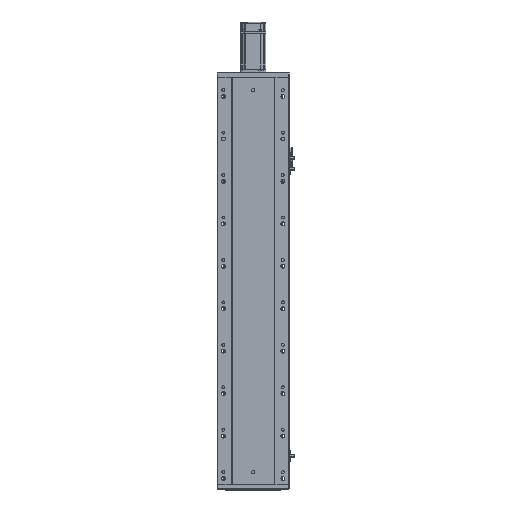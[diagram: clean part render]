
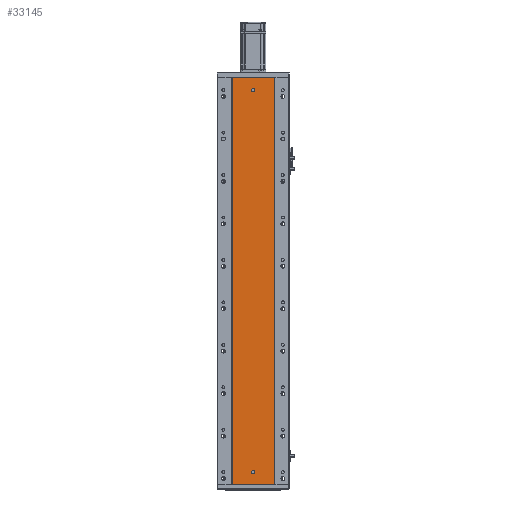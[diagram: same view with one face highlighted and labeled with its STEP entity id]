
A CAD part, front view. The second image highlights one B-rep face of the part: STEP entity #33145.
In plain terms, the highlighted planar face has unit normal (0, -1, 0).
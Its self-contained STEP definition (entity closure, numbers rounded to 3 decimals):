
#1132 = EDGE_LOOP ( 'NONE', ( #59317, #59352, #59355, #59358 ) ) ;
#1149 = EDGE_LOOP ( 'NONE', ( #59043, #59313 ) ) ;
#1242 = EDGE_LOOP ( 'NONE', ( #58969, #58989 ) ) ;
#4739 = CARTESIAN_POINT ( 'NONE',  ( 86.97, 79.476, 0. ) ) ;
#4745 = CARTESIAN_POINT ( 'NONE',  ( 86.97, 79.476, 960. ) ) ;
#4750 = CARTESIAN_POINT ( 'NONE',  ( 185.97, 79.476, 960. ) ) ;
#4797 = CARTESIAN_POINT ( 'NONE',  ( 185.97, 79.476, 0. ) ) ;
#5525 = CARTESIAN_POINT ( 'NONE',  ( 136.47, 79.476, 26. ) ) ;
#7354 = CARTESIAN_POINT ( 'NONE',  ( 136.47, 79.476, 34. ) ) ;
#14671 = AXIS2_PLACEMENT_3D ( 'NONE', #17556, #17520, #17567 ) ;
#14689 = AXIS2_PLACEMENT_3D ( 'NONE', #17436, #17437, #17435 ) ;
#15260 = EDGE_CURVE ( 'NONE', #31428, #31458, #35098, .T. ) ;
#15283 = EDGE_CURVE ( 'NONE', #31458, #31436, #61201, .T. ) ;
#15286 = EDGE_CURVE ( 'NONE', #46937, #46939, #61212, .T. ) ;
#15293 = EDGE_CURVE ( 'NONE', #46888, #46855, #61176, .T. ) ;
#15297 = EDGE_CURVE ( 'NONE', #31428, #31463, #61148, .T. ) ;
#15311 = EDGE_CURVE ( 'NONE', #31463, #31436, #35109, .T. ) ;
#17435 = DIRECTION ( 'NONE',  ( 0., 0., -1. ) ) ;
#17436 = CARTESIAN_POINT ( 'NONE',  ( 136.47, 79.476, 930. ) ) ;
#17437 = DIRECTION ( 'NONE',  ( 0., -1., 0. ) ) ;
#17520 = DIRECTION ( 'NONE',  ( 0., -1., 0. ) ) ;
#17556 = CARTESIAN_POINT ( 'NONE',  ( 136.47, 79.476, 30. ) ) ;
#17567 = DIRECTION ( 'NONE',  ( 0., 0., -1. ) ) ;
#21744 = DIRECTION ( 'NONE',  ( 0., 0., 1. ) ) ;
#21759 = PLANE ( 'NONE',  #23997 ) ;
#21771 = DIRECTION ( 'NONE',  ( 0., 1., 0. ) ) ;
#21778 = CARTESIAN_POINT ( 'NONE',  ( 0., 79.476, 960. ) ) ;
#23997 = AXIS2_PLACEMENT_3D ( 'NONE', #21778, #21771, #21744 ) ;
#25894 = CIRCLE ( 'NONE', #14689, 4. ) ;
#26053 = CIRCLE ( 'NONE', #14671, 4. ) ;
#27700 = CARTESIAN_POINT ( 'NONE',  ( 86.97, 79.476, 960. ) ) ;
#27709 = CARTESIAN_POINT ( 'NONE',  ( 86.97, 79.476, 640. ) ) ;
#27726 = CARTESIAN_POINT ( 'NONE',  ( 86.97, 79.476, 0. ) ) ;
#27742 = CARTESIAN_POINT ( 'NONE',  ( 86.97, 79.476, 320. ) ) ;
#27808 = DIRECTION ( 'NONE',  ( 0., 0., -1. ) ) ;
#27822 = CARTESIAN_POINT ( 'NONE',  ( 136.47, 79.476, 30. ) ) ;
#27826 = DIRECTION ( 'NONE',  ( 1., 0., 0. ) ) ;
#27848 = DIRECTION ( 'NONE',  ( 0., -1., 0. ) ) ;
#27877 = CARTESIAN_POINT ( 'NONE',  ( 0., 79.476, 0. ) ) ;
#27879 = CARTESIAN_POINT ( 'NONE',  ( 136.47, 79.476, 930. ) ) ;
#27884 = CARTESIAN_POINT ( 'NONE',  ( 185.97, 79.476, 640. ) ) ;
#27889 = DIRECTION ( 'NONE',  ( 0., -1., 0. ) ) ;
#27897 = CARTESIAN_POINT ( 'NONE',  ( 185.97, 79.476, 960. ) ) ;
#27917 = CARTESIAN_POINT ( 'NONE',  ( 185.97, 79.476, 320. ) ) ;
#27921 = DIRECTION ( 'NONE',  ( 0., 0., -1. ) ) ;
#27924 = CARTESIAN_POINT ( 'NONE',  ( 185.97, 79.476, 0. ) ) ;
#27934 = DIRECTION ( 'NONE',  ( 1., 0., 0. ) ) ;
#27938 = CARTESIAN_POINT ( 'NONE',  ( 0., 79.476, 960. ) ) ;
#31428 = VERTEX_POINT ( 'NONE', #4745 ) ;
#31436 = VERTEX_POINT ( 'NONE', #4797 ) ;
#31458 = VERTEX_POINT ( 'NONE', #4739 ) ;
#31463 = VERTEX_POINT ( 'NONE', #4750 ) ;
#33145 = ADVANCED_FACE ( 'NONE', ( #54916, #54933, #54955 ), #21759, .F. ) ;
#35098 = B_SPLINE_CURVE_WITH_KNOTS ( 'NONE', 3,
 ( #27700, #27709, #27742, #27726 ),
 .UNSPECIFIED., .F., .F.,
 ( 4, 4 ),
 ( 0., 1. ),
 .UNSPECIFIED. ) ;
#35109 = B_SPLINE_CURVE_WITH_KNOTS ( 'NONE', 3,
 ( #27897, #27884, #27917, #27924 ),
 .UNSPECIFIED., .F., .F.,
 ( 4, 4 ),
 ( 0., 1. ),
 .UNSPECIFIED. ) ;
#46855 = VERTEX_POINT ( 'NONE', #61989 ) ;
#46888 = VERTEX_POINT ( 'NONE', #62002 ) ;
#46937 = VERTEX_POINT ( 'NONE', #5525 ) ;
#46939 = VERTEX_POINT ( 'NONE', #7354 ) ;
#54916 = FACE_BOUND ( 'NONE', #1242, .T. ) ;
#54933 = FACE_BOUND ( 'NONE', #1149, .T. ) ;
#54955 = FACE_OUTER_BOUND ( 'NONE', #1132, .T. ) ;
#58969 = ORIENTED_EDGE ( 'NONE', *, *, #15293, .F. ) ;
#58989 = ORIENTED_EDGE ( 'NONE', *, *, #67948, .F. ) ;
#59043 = ORIENTED_EDGE ( 'NONE', *, *, #15286, .F. ) ;
#59313 = ORIENTED_EDGE ( 'NONE', *, *, #67980, .F. ) ;
#59317 = ORIENTED_EDGE ( 'NONE', *, *, #15283, .T. ) ;
#59352 = ORIENTED_EDGE ( 'NONE', *, *, #15311, .F. ) ;
#59355 = ORIENTED_EDGE ( 'NONE', *, *, #15297, .F. ) ;
#59358 = ORIENTED_EDGE ( 'NONE', *, *, #15260, .T. ) ;
#61124 = VECTOR ( 'NONE', #27826, 1000. ) ;
#61148 = LINE ( 'NONE', #27938, #61221 ) ;
#61176 = CIRCLE ( 'NONE', #63118, 4. ) ;
#61201 = LINE ( 'NONE', #27877, #61124 ) ;
#61212 = CIRCLE ( 'NONE', #63183, 4. ) ;
#61221 = VECTOR ( 'NONE', #27934, 1000. ) ;
#61989 = CARTESIAN_POINT ( 'NONE',  ( 136.47, 79.476, 934. ) ) ;
#62002 = CARTESIAN_POINT ( 'NONE',  ( 136.47, 79.476, 926. ) ) ;
#63118 = AXIS2_PLACEMENT_3D ( 'NONE', #27879, #27889, #27921 ) ;
#63183 = AXIS2_PLACEMENT_3D ( 'NONE', #27822, #27848, #27808 ) ;
#67948 = EDGE_CURVE ( 'NONE', #46855, #46888, #25894, .T. ) ;
#67980 = EDGE_CURVE ( 'NONE', #46939, #46937, #26053, .T. ) ;
